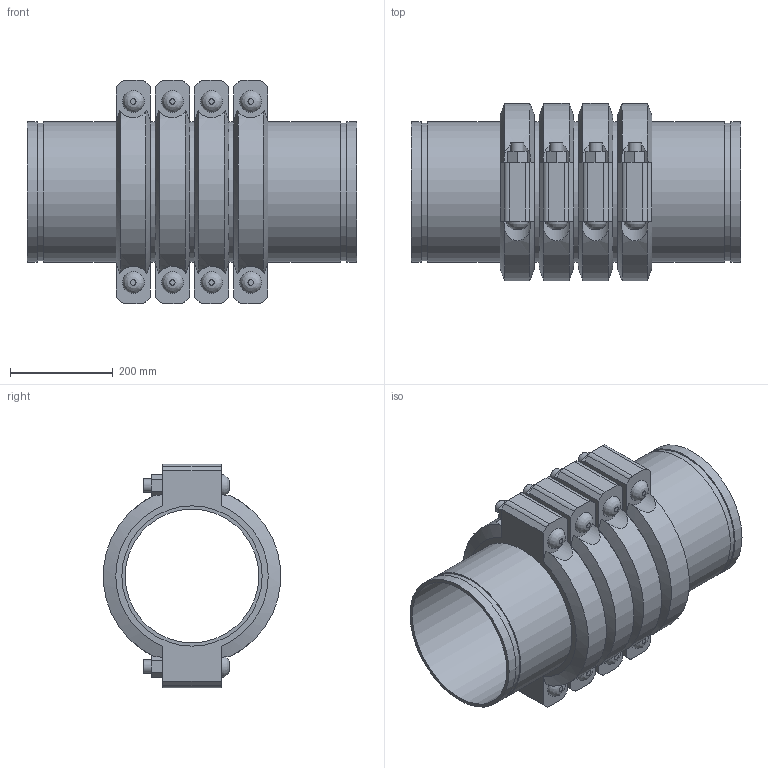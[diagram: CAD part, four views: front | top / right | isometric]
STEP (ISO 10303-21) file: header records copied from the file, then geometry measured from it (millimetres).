
FILE_DESCRIPTION(/* description */ ('VIC SS EXPANSION JOINT 4 COUPLINGS EXPANDED STYLE 155P (OGS) (POTABLE WATER) ','CAx-IF Rec.Pracs.---Representation and Presentation of Product Manufacturing Information (PMI)---4.0---2014-10-13'),/* implementation_level */ '2;1');
FILE_NAME(/* name */ 'C:\Users\kkamble\AppData\Roaming\Autodesk\ApplicationPlugins\Victaulic.Temp\A557\Victaulic_SS_Expansion Joint_Expanded_4 Couplings_Style 155P (OGS)-Potable Water_4 Coup_Expd_10 (250).stp',/* time_stamp */ '2021-07-16T16:51:43+05:00',/* author */ ('kkamble'),/* organization */ ('Victaulic'),/* preprocessor_version */ 'ST-DEVELOPER v17.2',/* originating_system */ 'Autodesk Inventor 2019',/* authorisation */ '');
FILE_SCHEMA (('AUTOMOTIVE_DESIGN { 1 0 10303 214 3 1 1 }','FEATURE_BASED_PROCESS_PLANNING','AP242_MANAGED_MODEL_BASED_3D_ENGINEERING_MIM_LF { 1 0 10303 442 1 1 4 }'));
Length unit declared in the file: inch
Products named in the file (4): 155P-10.0; Nipple-10.0; Nipple-10.0_1; 077-10.0
Assembly tree (9 placements, depth 2):
  155P-10.0
    Nipple-10.0  x2
    Nipple-10.0_1  x3
    077-10.0  x4
Bounding box: 641.35 x 344.9 x 435.1 mm (x, y, z)
Volume: 14821029.1 mm3; surface area: 2265315 mm2
Topology: 9 solids, 17 shells, 304 faces, 730 edges, 512 vertices
Faces by surface type: plane 174, cylinder 106, cone 16, bspline 8
Full cylindrical faces by diameter (mm): 25.4 x16, 27.432 x8, 260.35 x5, 264.16 x4, 268.275 x10, 273.05 x23
Entity records: 3048 total; most frequent: CARTESIAN_POINT 673, DIRECTION 473, ORIENTED_EDGE 410, EDGE_CURVE 205, AXIS2_PLACEMENT_3D 192, VERTEX_POINT 146, EDGE_LOOP 111, CIRCLE 96
